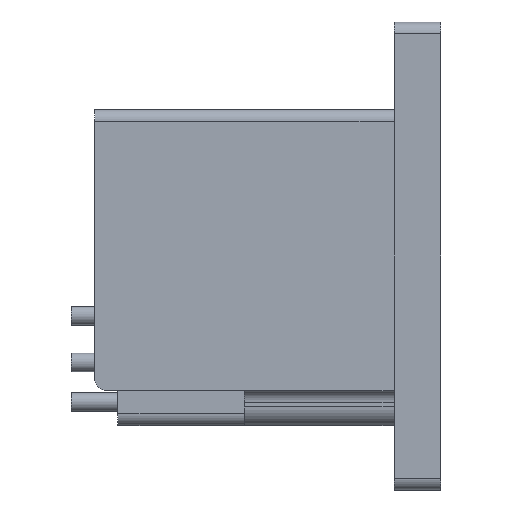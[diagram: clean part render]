
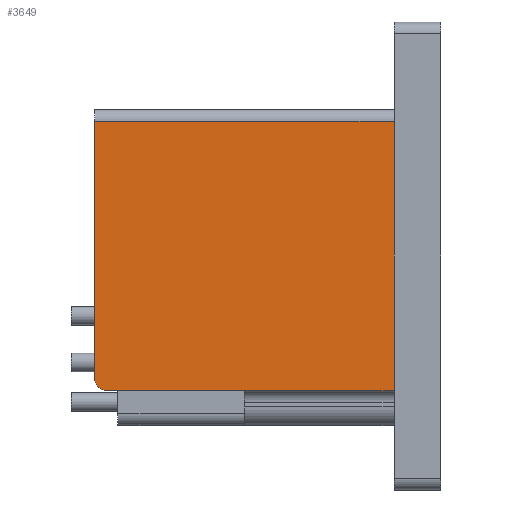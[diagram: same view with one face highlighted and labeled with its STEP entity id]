
A CAD part, left-side view. The second image highlights one B-rep face of the part: STEP entity #3649.
In plain terms, the highlighted planar face has unit normal (-1, 0, 0).
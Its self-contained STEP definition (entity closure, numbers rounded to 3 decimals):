
#31 = ORIENTED_EDGE ( 'NONE', *, *, #399, .F. ) ;
#72 = VERTEX_POINT ( 'NONE', #1480 ) ;
#127 = ORIENTED_EDGE ( 'NONE', *, *, #1335, .F. ) ;
#218 = CARTESIAN_POINT ( 'NONE',  ( -6.25, 0.5, 0. ) ) ;
#399 = EDGE_CURVE ( 'NONE', #3657, #1489, #1472, .T. ) ;
#436 = FACE_OUTER_BOUND ( 'NONE', #3661, .T. ) ;
#476 = EDGE_CURVE ( 'NONE', #1696, #528, #3756, .T. ) ;
#488 = DIRECTION ( 'NONE',  ( -1., 0., 0. ) ) ;
#513 = DIRECTION ( 'NONE',  ( 0., 0., -1. ) ) ;
#528 = VERTEX_POINT ( 'NONE', #1744 ) ;
#635 = LINE ( 'NONE', #2276, #1171 ) ;
#884 = DIRECTION ( 'NONE',  ( 0., 0., -1. ) ) ;
#991 = CARTESIAN_POINT ( 'NONE',  ( -6.25, 0.5, 5.75 ) ) ;
#1087 = CARTESIAN_POINT ( 'NONE',  ( -6.25, 12.8, -5.25 ) ) ;
#1171 = VECTOR ( 'NONE', #1303, 1000. ) ;
#1303 = DIRECTION ( 'NONE',  ( 0., 0., 1. ) ) ;
#1335 = EDGE_CURVE ( 'NONE', #72, #528, #3453, .T. ) ;
#1351 = CARTESIAN_POINT ( 'NONE',  ( -6.25, 6.9, 5.75 ) ) ;
#1470 = DIRECTION ( 'NONE',  ( 1., 0., 0. ) ) ;
#1472 = LINE ( 'NONE', #1351, #2172 ) ;
#1479 = ORIENTED_EDGE ( 'NONE', *, *, #3280, .F. ) ;
#1480 = CARTESIAN_POINT ( 'NONE',  ( -6.25, 6.9, -5.75 ) ) ;
#1489 = VERTEX_POINT ( 'NONE', #991 ) ;
#1696 = VERTEX_POINT ( 'NONE', #1754 ) ;
#1744 = CARTESIAN_POINT ( 'NONE',  ( -6.25, 12.8, -5.75 ) ) ;
#1754 = CARTESIAN_POINT ( 'NONE',  ( -6.25, 13.3, -5.25 ) ) ;
#1882 = ORIENTED_EDGE ( 'NONE', *, *, #2331, .F. ) ;
#2014 = DIRECTION ( 'NONE',  ( 0., -1., 0. ) ) ;
#2080 = CARTESIAN_POINT ( 'NONE',  ( -6.25, 0.5, -5.75 ) ) ;
#2092 = LINE ( 'NONE', #218, #3237 ) ;
#2172 = VECTOR ( 'NONE', #2014, 1000. ) ;
#2276 = CARTESIAN_POINT ( 'NONE',  ( -6.25, 13.3, -6.25 ) ) ;
#2331 = EDGE_CURVE ( 'NONE', #1489, #3491, #2092, .T. ) ;
#2391 = DIRECTION ( 'NONE',  ( 0., 1., 0. ) ) ;
#2401 = CARTESIAN_POINT ( 'NONE',  ( -6.25, 6.9, -5.75 ) ) ;
#2441 = PLANE ( 'NONE',  #2695 ) ;
#2463 = DIRECTION ( 'NONE',  ( 0., 0., -1. ) ) ;
#2465 = CARTESIAN_POINT ( 'NONE',  ( -6.25, 0.5, -5.75 ) ) ;
#2678 = LINE ( 'NONE', #2465, #3836 ) ;
#2695 = AXIS2_PLACEMENT_3D ( 'NONE', #2401, #1470, #884 ) ;
#2822 = ORIENTED_EDGE ( 'NONE', *, *, #3779, .F. ) ;
#2855 = DIRECTION ( 'NONE',  ( 0., 1., 0. ) ) ;
#3237 = VECTOR ( 'NONE', #2463, 1000. ) ;
#3267 = CARTESIAN_POINT ( 'NONE',  ( -6.25, 0.5, -5.75 ) ) ;
#3280 = EDGE_CURVE ( 'NONE', #1696, #3657, #635, .T. ) ;
#3453 = LINE ( 'NONE', #2080, #3545 ) ;
#3475 = AXIS2_PLACEMENT_3D ( 'NONE', #1087, #488, #513 ) ;
#3491 = VERTEX_POINT ( 'NONE', #3267 ) ;
#3508 = ORIENTED_EDGE ( 'NONE', *, *, #476, .T. ) ;
#3545 = VECTOR ( 'NONE', #2391, 1000. ) ;
#3649 = ADVANCED_FACE ( 'NONE', ( #436 ), #2441, .F. ) ;
#3657 = VERTEX_POINT ( 'NONE', #4029 ) ;
#3661 = EDGE_LOOP ( 'NONE', ( #1479, #3508, #127, #2822, #1882, #31 ) ) ;
#3756 = CIRCLE ( 'NONE', #3475, 0.5 ) ;
#3779 = EDGE_CURVE ( 'NONE', #3491, #72, #2678, .T. ) ;
#3836 = VECTOR ( 'NONE', #2855, 1000. ) ;
#4029 = CARTESIAN_POINT ( 'NONE',  ( -6.25, 13.3, 5.75 ) ) ;
